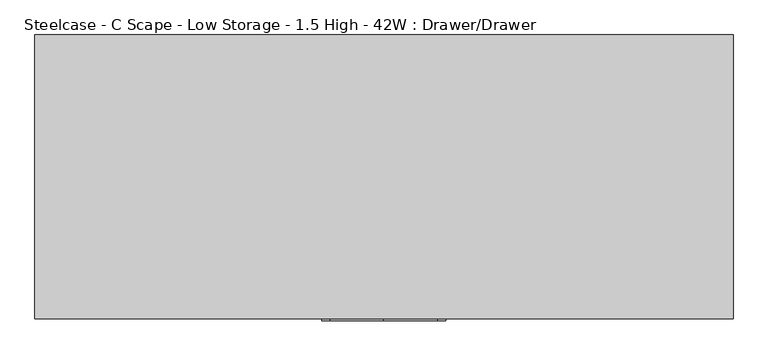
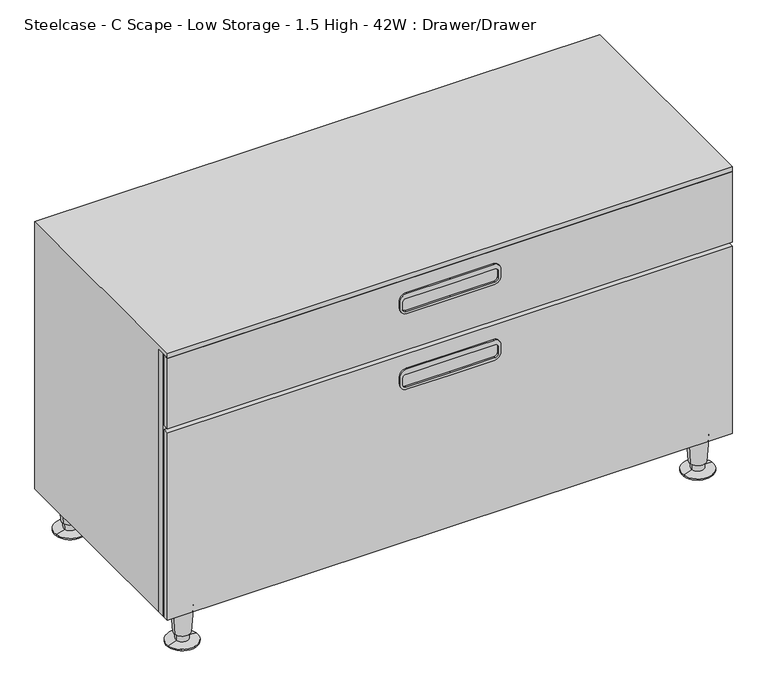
"""IFC4 building model written with IfcOpenShell, lengths in millimetres: furniture geometry, Steelcase - C Scape - Low Storage - 1.5 High - 42W : Drawer/Drawer."""

from ifc_helpers import new_model, si_unit, point, frame, frame_2d, origin, place, context, project, spatial, polyline, circle_curve, trimmed, segment, composite_curve, outline, extrude, faceted_brep, source, transform, mapped, element, save
from ifc_brep_helpers import plane_surface, cylinder_surface, revolved_surface, advanced_brep


def steelcase_c_scape_low_storage_1_5_high_42w_drawer_drawer_9a1840af(model_context):
    return source(origin(), model_context, "Body", "SolidModel", [
        extrude(outline(polyline([(599.44, 532.2710512), (599.44, 0.0), (76.1999955, 0.0), (76.1999955, 1065.53), (599.44, 1065.53), (599.44, 532.2710512)]), holes=[polyline([(92.7100024, 1043.5617285), (92.7100024, 21.3382324), (582.93, 21.3382324), (582.93, 1043.5617285), (92.7100024, 1043.5617285)])]), frame((0.0, -419.3484735, 0.0), z_axis=(0.0, 1.0, 0.0), x_axis=(0.0, 0.0, 1.0)), (0.0, 0.0, 1.0), 14.9862946),
        extrude(outline(composite_curve([segment(trimmed(circle_curve(frame_2d((560.7050073, 450.2147442)), 12.7), [point((573.4050073, 450.2147442))], [point((560.7050073, 437.5147442))], False, "CARTESIAN"), True, "CONTINUOUS"), segment(polyline([(560.7050073, 437.5147442), (546.1000363, 437.5147442)]), True, "CONTINUOUS"), segment(trimmed(circle_curve(frame_2d((546.1000363, 450.2147442)), 12.7), [point((546.1000363, 437.5147442))], [point((533.4000363, 450.2147442))], False, "CARTESIAN"), True, "CONTINUOUS"), segment(polyline([(533.4000363, 450.2147442), (533.4000363, 532.4475), (533.4000363, 614.6802558)]), True, "CONTINUOUS"), segment(trimmed(circle_curve(frame_2d((546.1000363, 614.6802558)), 12.7), [point((533.4000363, 614.6802558))], [point((546.1000363, 627.3802558))], False, "CARTESIAN"), True, "CONTINUOUS"), segment(polyline([(546.1000363, 627.3802558), (560.7050073, 627.3802558)]), True, "CONTINUOUS"), segment(trimmed(circle_curve(frame_2d((560.7050073, 614.6802558)), 12.7), [point((560.7050073, 627.3802558))], [point((573.4050073, 614.6802558))], False, "CARTESIAN"), True, "CONTINUOUS"), segment(polyline([(573.4050073, 614.6802558), (573.4050073, 532.4475), (573.4050073, 450.2147442)]), True, "CONTINUOUS")], self_intersect=False), holes=[composite_curve([segment(trimmed(circle_curve(frame_2d((557.2760257, 448.6923565)), 6.35), [point((557.2760257, 442.3423565))], [point((563.6260257, 448.6923565))], True, "CARTESIAN"), True, "CONTINUOUS"), segment(polyline([(563.6260257, 448.6923565), (563.6260257, 532.4475), (563.6260257, 616.2026435)]), True, "CONTINUOUS"), segment(trimmed(circle_curve(frame_2d((557.2760257, 616.2026435)), 6.35), [point((563.6260257, 616.2026435))], [point((557.2760257, 622.5526435))], True, "CARTESIAN"), True, "CONTINUOUS"), segment(polyline([(557.2760257, 622.5526435), (544.5760136, 622.5526435)]), True, "CONTINUOUS"), segment(trimmed(circle_curve(frame_2d((544.5760136, 616.2026435)), 6.35), [point((544.5760136, 622.5526435))], [point((538.2260136, 616.2026435))], True, "CARTESIAN"), True, "CONTINUOUS"), segment(polyline([(538.2260136, 616.2026435), (538.2260136, 532.4475), (538.2260136, 448.6923565)]), True, "CONTINUOUS"), segment(trimmed(circle_curve(frame_2d((544.5760136, 448.6923565)), 6.35), [point((538.2260136, 448.6923565))], [point((544.5760136, 442.3423565))], True, "CARTESIAN"), True, "CONTINUOUS"), segment(polyline([(544.5760136, 442.3423565), (557.2760257, 442.3423565)]), True, "CONTINUOUS")], self_intersect=False)]), frame((0.0, -436.118, 0.0), z_axis=(0.0, 1.0, 0.0), x_axis=(0.0, 0.0, 1.0)), (0.0, 0.0, 1.0), 3.048),
        extrude(outline(composite_curve([segment(trimmed(circle_curve(frame_2d((409.5749879, 450.2147442)), 12.7), [point((422.2749879, 450.2147442))], [point((409.5749879, 437.5147442))], False, "CARTESIAN"), True, "CONTINUOUS"), segment(polyline([(409.5749879, 437.5147442), (394.970017, 437.5147442)]), True, "CONTINUOUS"), segment(trimmed(circle_curve(frame_2d((394.970017, 450.2147442)), 12.7), [point((394.970017, 437.5147442))], [point((382.270017, 450.2147442))], False, "CARTESIAN"), True, "CONTINUOUS"), segment(polyline([(382.270017, 450.2147442), (382.270017, 532.4475), (382.270017, 614.6802558)]), True, "CONTINUOUS"), segment(trimmed(circle_curve(frame_2d((394.970017, 614.6802558)), 12.7), [point((382.270017, 614.6802558))], [point((394.970017, 627.3802558))], False, "CARTESIAN"), True, "CONTINUOUS"), segment(polyline([(394.970017, 627.3802558), (409.5749879, 627.3802558)]), True, "CONTINUOUS"), segment(trimmed(circle_curve(frame_2d((409.5749879, 614.6802558)), 12.7), [point((409.5749879, 627.3802558))], [point((422.2749879, 614.6802558))], False, "CARTESIAN"), True, "CONTINUOUS"), segment(polyline([(422.2749879, 614.6802558), (422.2749879, 532.4475), (422.2749879, 450.2147442)]), True, "CONTINUOUS")], self_intersect=False), holes=[composite_curve([segment(trimmed(circle_curve(frame_2d((406.1460063, 448.6923565)), 6.35), [point((406.1460063, 442.3423565))], [point((412.4960063, 448.6923565))], True, "CARTESIAN"), True, "CONTINUOUS"), segment(polyline([(412.4960063, 448.6923565), (412.4960063, 532.4475), (412.4960063, 616.2026435)]), True, "CONTINUOUS"), segment(trimmed(circle_curve(frame_2d((406.1460063, 616.2026435)), 6.35), [point((412.4960063, 616.2026435))], [point((406.1460063, 622.5526435))], True, "CARTESIAN"), True, "CONTINUOUS"), segment(polyline([(406.1460063, 622.5526435), (393.4459942, 622.5526435)]), True, "CONTINUOUS"), segment(trimmed(circle_curve(frame_2d((393.4459942, 616.2026435)), 6.35), [point((393.4459942, 622.5526435))], [point((387.0959942, 616.2026435))], True, "CARTESIAN"), True, "CONTINUOUS"), segment(polyline([(387.0959942, 616.2026435), (387.0959942, 532.4475), (387.0959942, 448.6923565)]), True, "CONTINUOUS"), segment(trimmed(circle_curve(frame_2d((393.4459942, 448.6923565)), 6.35), [point((387.0959942, 448.6923565))], [point((393.4459942, 442.3423565))], True, "CARTESIAN"), True, "CONTINUOUS"), segment(polyline([(393.4459942, 442.3423565), (406.1460063, 442.3423565)]), True, "CONTINUOUS")], self_intersect=False)]), frame((0.0, -436.118, 0.0), z_axis=(0.0, 1.0, 0.0), x_axis=(0.0, 0.0, 1.0)), (0.0, 0.0, 1.0), 3.048),
        advanced_brep(
        [(1038.2598695, -31.5218435, 76.2), (1000.5981305, -37.2840847, 76.2), (1019.429, -34.4029641, 76.2), (1034.3095214, -32.1262463, 19.05), (1004.5484786, -36.6796819, 19.05), (1031.8799345, -32.4979728, 19.05), (1006.9780655, -36.3079555, 19.05), (1031.191165, -32.6033544, 5.7545598), (1007.666835, -36.2025738, 5.7545598), (1048.5400485, -29.9489775, 2.5119506), (990.3179515, -38.8569507, 2.5119506), (1048.5400485, -29.9489775, 0.0), (990.3179515, -38.8569507, 0.0), (1019.429, -34.4029641, 0.0)],
        [
            (0, 1, circle_curve(frame((1019.429, -34.4029641, 76.2), z_axis=(0.0, 0.0, 1.0), x_axis=(0.0, -1.0, 0.0)), 19.05)),
            (1, 2),
            (2, 0),
            (1, 0, circle_curve(frame((1019.429, -34.4029641, 76.2), z_axis=(0.0, 0.0, 1.0), x_axis=(0.0, -1.0, 0.0)), 19.05)),
            (3, 4, circle_curve(frame((1019.429, -34.4029641, 19.05), z_axis=(0.0, 0.0, 1.0), x_axis=(0.0, -1.0, 0.0)), 15.0536827)),
            (4, 1),
            (0, 3),
            (4, 3, circle_curve(frame((1019.429, -34.4029641, 19.05), z_axis=(0.0, 0.0, 1.0), x_axis=(0.0, -1.0, 0.0)), 15.0536827)),
            (5, 6, circle_curve(frame((1019.429, -34.4029641, 19.05), z_axis=(0.0, 0.0, 1.0), x_axis=(0.0, -1.0, 0.0)), 12.5958232)),
            (6, 4),
            (3, 5),
            (6, 5, circle_curve(frame((1019.429, -34.4029641, 19.05), z_axis=(0.0, 0.0, 1.0), x_axis=(0.0, -1.0, 0.0)), 12.5958232)),
            (7, 8, circle_curve(frame((1019.429, -34.4029641, 5.7545598), z_axis=(0.0, 0.0, 1.0), x_axis=(0.0, -1.0, 0.0)), 11.8990387)),
            (8, 6),
            (5, 7),
            (8, 7, circle_curve(frame((1019.429, -34.4029641, 5.7545598), z_axis=(0.0, 0.0, 1.0), x_axis=(0.0, -1.0, 0.0)), 11.8990387)),
            (9, 10, circle_curve(frame((1019.429, -34.4029641, 2.5119506), z_axis=(0.0, 0.0, 1.0), x_axis=(0.0, -1.0, 0.0)), 29.4498071)),
            (10, 8),
            (7, 9),
            (10, 9, circle_curve(frame((1019.429, -34.4029641, 2.5119506), z_axis=(0.0, 0.0, 1.0), x_axis=(0.0, -1.0, 0.0)), 29.4498071)),
            (11, 12, circle_curve(frame((1019.429, -34.4029641, 0.0), z_axis=(0.0, 0.0, 1.0), x_axis=(0.0, -1.0, 0.0)), 29.4498071)),
            (12, 10),
            (9, 11),
            (12, 11, circle_curve(frame((1019.429, -34.4029641, 0.0), z_axis=(0.0, 0.0, 1.0), x_axis=(0.0, -1.0, 0.0)), 29.4498071)),
            (13, 12),
            (11, 13),
        ],
        [
            plane_surface(frame((1019.429, -34.4029641, 76.2), z_axis=(0.0, 0.0, 1.0), x_axis=(0.0, -1.0, 0.0))),
            revolved_surface(polyline([(1019.429, -53.4529641, 76.2), (1019.429, -49.4566468, 19.05)]), (1019.429, -34.4029641, 25.4), (0.0, 0.0, -1.0)),
            plane_surface(frame((1019.429, -34.4029641, 19.05), z_axis=(0.0, 0.0, -1.0), x_axis=(0.0, -1.0, 0.0))),
            revolved_surface(polyline([(1019.429, -46.9987873, 19.05), (1019.429, -46.3020028, 5.7545598)]), (1019.429, -34.4029641, 25.4), (0.0, 0.0, -1.0)),
            revolved_surface(polyline([(1019.429, -46.3020028, 5.7545598), (1019.429, -63.8527712, 2.5119506)]), (1019.429, -34.4029641, 25.4), (0.0, 0.0, -1.0)),
            cylinder_surface(frame((1019.429, -34.4029641, 25.4), z_axis=(0.0, 0.0, -1.0), x_axis=(0.0, -1.0, 0.0)), 29.4498071),
            plane_surface(frame((1019.429, -34.4029641, 0.0), z_axis=(0.0, 0.0, -1.0), x_axis=(0.0, -1.0, 0.0))),
        ],
        [
            (0, [[1, 2, 3]]),
            (0, [[4, -3, -2]]),
            (1, [[5, 6, -1, 7]]),
            (1, [[8, -7, -4, -6]]),
            (2, [[9, 10, -5, 11]]),
            (2, [[12, -11, -8, -10]]),
            (3, [[13, 14, -9, 15]]),
            (3, [[16, -15, -12, -14]]),
            (4, [[17, 18, -13, 19]]),
            (4, [[20, -19, -16, -18]]),
            (5, [[21, 22, -17, 23]]),
            (5, [[24, -23, -20, -22]]),
            (6, [[25, -21, 26]]),
            (6, [[-26, -24, -25]]),
        ],
    ),
        advanced_brep(
        [(1038.2598695, -397.1702762, 76.2), (1000.5981305, -402.9325174, 76.2), (1019.429, -400.0513968, 76.2), (1034.3095214, -397.774679, 19.05), (1004.5484786, -402.3281146, 19.05), (1031.8799345, -398.1464055, 19.05), (1006.9780655, -401.9563882, 19.05), (1031.191165, -398.2517871, 5.7545598), (1007.666835, -401.8510065, 5.7545598), (1048.5400485, -395.5974102, 2.5119506), (990.3179515, -404.5053834, 2.5119506), (1048.5400485, -395.5974102, 0.0), (990.3179515, -404.5053834, 0.0), (1019.429, -400.0513968, 0.0)],
        [
            (0, 1, circle_curve(frame((1019.429, -400.0513968, 76.2), z_axis=(0.0, 0.0, 1.0), x_axis=(0.0, -1.0, 0.0)), 19.05)),
            (1, 2),
            (2, 0),
            (1, 0, circle_curve(frame((1019.429, -400.0513968, 76.2), z_axis=(0.0, 0.0, 1.0), x_axis=(0.0, -1.0, 0.0)), 19.05)),
            (3, 4, circle_curve(frame((1019.429, -400.0513968, 19.05), z_axis=(0.0, 0.0, 1.0), x_axis=(0.0, -1.0, 0.0)), 15.0536827)),
            (4, 1),
            (0, 3),
            (4, 3, circle_curve(frame((1019.429, -400.0513968, 19.05), z_axis=(0.0, 0.0, 1.0), x_axis=(0.0, -1.0, 0.0)), 15.0536827)),
            (5, 6, circle_curve(frame((1019.429, -400.0513968, 19.05), z_axis=(0.0, 0.0, 1.0), x_axis=(0.0, -1.0, 0.0)), 12.5958232)),
            (6, 4),
            (3, 5),
            (6, 5, circle_curve(frame((1019.429, -400.0513968, 19.05), z_axis=(0.0, 0.0, 1.0), x_axis=(0.0, -1.0, 0.0)), 12.5958232)),
            (7, 8, circle_curve(frame((1019.429, -400.0513968, 5.7545598), z_axis=(0.0, 0.0, 1.0), x_axis=(0.0, -1.0, 0.0)), 11.8990387)),
            (8, 6),
            (5, 7),
            (8, 7, circle_curve(frame((1019.429, -400.0513968, 5.7545598), z_axis=(0.0, 0.0, 1.0), x_axis=(0.0, -1.0, 0.0)), 11.8990387)),
            (9, 10, circle_curve(frame((1019.429, -400.0513968, 2.5119506), z_axis=(0.0, 0.0, 1.0), x_axis=(0.0, -1.0, 0.0)), 29.4498071)),
            (10, 8),
            (7, 9),
            (10, 9, circle_curve(frame((1019.429, -400.0513968, 2.5119506), z_axis=(0.0, 0.0, 1.0), x_axis=(0.0, -1.0, 0.0)), 29.4498071)),
            (11, 12, circle_curve(frame((1019.429, -400.0513968, 0.0), z_axis=(0.0, 0.0, 1.0), x_axis=(0.0, -1.0, 0.0)), 29.4498071)),
            (12, 10),
            (9, 11),
            (12, 11, circle_curve(frame((1019.429, -400.0513968, 0.0), z_axis=(0.0, 0.0, 1.0), x_axis=(0.0, -1.0, 0.0)), 29.4498071)),
            (13, 12),
            (11, 13),
        ],
        [
            plane_surface(frame((1019.429, -400.0513968, 76.2), z_axis=(0.0, 0.0, 1.0), x_axis=(0.0, -1.0, 0.0))),
            revolved_surface(polyline([(1019.429, -419.1013968, 76.2), (1019.429, -415.1050795, 19.05)]), (1019.429, -400.0513968, 25.4), (0.0, 0.0, -1.0)),
            plane_surface(frame((1019.429, -400.0513968, 19.05), z_axis=(0.0, 0.0, -1.0), x_axis=(0.0, -1.0, 0.0))),
            revolved_surface(polyline([(1019.429, -412.64722, 19.05), (1019.429, -411.9504355, 5.7545598)]), (1019.429, -400.0513968, 25.4), (0.0, 0.0, -1.0)),
            revolved_surface(polyline([(1019.429, -411.9504355, 5.7545598), (1019.429, -429.5012039, 2.5119506)]), (1019.429, -400.0513968, 25.4), (0.0, 0.0, -1.0)),
            cylinder_surface(frame((1019.429, -400.0513968, 25.4), z_axis=(0.0, 0.0, -1.0), x_axis=(0.0, -1.0, 0.0)), 29.4498071),
            plane_surface(frame((1019.429, -400.0513968, 0.0), z_axis=(0.0, 0.0, -1.0), x_axis=(0.0, -1.0, 0.0))),
        ],
        [
            (0, [[1, 2, 3]]),
            (0, [[4, -3, -2]]),
            (1, [[5, 6, -1, 7]]),
            (1, [[8, -7, -4, -6]]),
            (2, [[9, 10, -5, 11]]),
            (2, [[12, -11, -8, -10]]),
            (3, [[13, 14, -9, 15]]),
            (3, [[16, -15, -12, -14]]),
            (4, [[17, 18, -13, 19]]),
            (4, [[20, -19, -16, -18]]),
            (5, [[21, 22, -17, 23]]),
            (5, [[24, -23, -20, -22]]),
            (6, [[25, -21, 26]]),
            (6, [[-26, -24, -25]]),
        ],
    ),
        advanced_brep(
        [(65.5422821, -397.1702762, 76.2), (27.8805432, -402.9325174, 76.2), (46.7114126, -400.0513968, 76.2), (61.5919341, -397.774679, 19.05), (31.8308912, -402.3281146, 19.05), (59.1623471, -398.1464055, 19.05), (34.2604781, -401.9563882, 19.05), (58.4735776, -398.2517871, 5.7545598), (34.9492476, -401.8510065, 5.7545598), (75.8224611, -395.5974102, 2.5119506), (17.6003641, -404.5053834, 2.5119506), (75.8224611, -395.5974102, 0.0), (17.6003641, -404.5053834, 0.0), (46.7114126, -400.0513968, 0.0)],
        [
            (0, 1, circle_curve(frame((46.7114126, -400.0513968, 76.2), z_axis=(0.0, 0.0, 1.0), x_axis=(0.0, -1.0, 0.0)), 19.05)),
            (1, 2),
            (2, 0),
            (1, 0, circle_curve(frame((46.7114126, -400.0513968, 76.2), z_axis=(0.0, 0.0, 1.0), x_axis=(0.0, -1.0, 0.0)), 19.05)),
            (3, 4, circle_curve(frame((46.7114126, -400.0513968, 19.05), z_axis=(0.0, 0.0, 1.0), x_axis=(0.0, -1.0, 0.0)), 15.0536827)),
            (4, 1),
            (0, 3),
            (4, 3, circle_curve(frame((46.7114126, -400.0513968, 19.05), z_axis=(0.0, 0.0, 1.0), x_axis=(0.0, -1.0, 0.0)), 15.0536827)),
            (5, 6, circle_curve(frame((46.7114126, -400.0513968, 19.05), z_axis=(0.0, 0.0, 1.0), x_axis=(0.0, -1.0, 0.0)), 12.5958232)),
            (6, 4),
            (3, 5),
            (6, 5, circle_curve(frame((46.7114126, -400.0513968, 19.05), z_axis=(0.0, 0.0, 1.0), x_axis=(0.0, -1.0, 0.0)), 12.5958232)),
            (7, 8, circle_curve(frame((46.7114126, -400.0513968, 5.7545598), z_axis=(0.0, 0.0, 1.0), x_axis=(0.0, -1.0, 0.0)), 11.8990387)),
            (8, 6),
            (5, 7),
            (8, 7, circle_curve(frame((46.7114126, -400.0513968, 5.7545598), z_axis=(0.0, 0.0, 1.0), x_axis=(0.0, -1.0, 0.0)), 11.8990387)),
            (9, 10, circle_curve(frame((46.7114126, -400.0513968, 2.5119506), z_axis=(0.0, 0.0, 1.0), x_axis=(0.0, -1.0, 0.0)), 29.4498071)),
            (10, 8),
            (7, 9),
            (10, 9, circle_curve(frame((46.7114126, -400.0513968, 2.5119506), z_axis=(0.0, 0.0, 1.0), x_axis=(0.0, -1.0, 0.0)), 29.4498071)),
            (11, 12, circle_curve(frame((46.7114126, -400.0513968, 0.0), z_axis=(0.0, 0.0, 1.0), x_axis=(0.0, -1.0, 0.0)), 29.4498071)),
            (12, 10),
            (9, 11),
            (12, 11, circle_curve(frame((46.7114126, -400.0513968, 0.0), z_axis=(0.0, 0.0, 1.0), x_axis=(0.0, -1.0, 0.0)), 29.4498071)),
            (13, 12),
            (11, 13),
        ],
        [
            plane_surface(frame((46.7114126, -400.0513968, 76.2), z_axis=(0.0, 0.0, 1.0), x_axis=(0.0, -1.0, 0.0))),
            revolved_surface(polyline([(46.7114126, -419.1013968, 76.2), (46.7114126, -415.1050795, 19.05)]), (46.7114126, -400.0513968, 25.4), (0.0, 0.0, -1.0)),
            plane_surface(frame((46.7114126, -400.0513968, 19.05), z_axis=(0.0, 0.0, -1.0), x_axis=(0.0, -1.0, 0.0))),
            revolved_surface(polyline([(46.7114126, -412.64722, 19.05), (46.7114126, -411.9504355, 5.7545598)]), (46.7114126, -400.0513968, 25.4), (0.0, 0.0, -1.0)),
            revolved_surface(polyline([(46.7114126, -411.9504355, 5.7545598), (46.7114126, -429.5012039, 2.5119506)]), (46.7114126, -400.0513968, 25.4), (0.0, 0.0, -1.0)),
            cylinder_surface(frame((46.7114126, -400.0513968, 25.4), z_axis=(0.0, 0.0, -1.0), x_axis=(0.0, -1.0, 0.0)), 29.4498071),
            plane_surface(frame((46.7114126, -400.0513968, 0.0), z_axis=(0.0, 0.0, -1.0), x_axis=(0.0, -1.0, 0.0))),
        ],
        [
            (0, [[1, 2, 3]]),
            (0, [[4, -3, -2]]),
            (1, [[5, 6, -1, 7]]),
            (1, [[8, -7, -4, -6]]),
            (2, [[9, 10, -5, 11]]),
            (2, [[12, -11, -8, -10]]),
            (3, [[13, 14, -9, 15]]),
            (3, [[16, -15, -12, -14]]),
            (4, [[17, 18, -13, 19]]),
            (4, [[20, -19, -16, -18]]),
            (5, [[21, 22, -17, 23]]),
            (5, [[24, -23, -20, -22]]),
            (6, [[25, -21, 26]]),
            (6, [[-26, -24, -25]]),
        ],
    ),
        advanced_brep(
        [(65.5422821, -31.5218435, 76.2), (27.8805432, -37.2840847, 76.2), (46.7114126, -34.4029641, 76.2), (61.5919341, -32.1262463, 19.05), (31.8308912, -36.6796819, 19.05), (59.1623471, -32.4979728, 19.05), (34.2604781, -36.3079555, 19.05), (58.4735776, -32.6033544, 5.7545598), (34.9492476, -36.2025738, 5.7545598), (75.8224611, -29.9489775, 2.5119506), (17.6003641, -38.8569507, 2.5119506), (75.8224611, -29.9489775, 0.0), (17.6003641, -38.8569507, 0.0), (46.7114126, -34.4029641, 0.0)],
        [
            (0, 1, circle_curve(frame((46.7114126, -34.4029641, 76.2), z_axis=(0.0, 0.0, 1.0), x_axis=(0.0, -1.0, 0.0)), 19.05)),
            (1, 2),
            (2, 0),
            (1, 0, circle_curve(frame((46.7114126, -34.4029641, 76.2), z_axis=(0.0, 0.0, 1.0), x_axis=(0.0, -1.0, 0.0)), 19.05)),
            (3, 4, circle_curve(frame((46.7114126, -34.4029641, 19.05), z_axis=(0.0, 0.0, 1.0), x_axis=(0.0, -1.0, 0.0)), 15.0536827)),
            (4, 1),
            (0, 3),
            (4, 3, circle_curve(frame((46.7114126, -34.4029641, 19.05), z_axis=(0.0, 0.0, 1.0), x_axis=(0.0, -1.0, 0.0)), 15.0536827)),
            (5, 6, circle_curve(frame((46.7114126, -34.4029641, 19.05), z_axis=(0.0, 0.0, 1.0), x_axis=(0.0, -1.0, 0.0)), 12.5958232)),
            (6, 4),
            (3, 5),
            (6, 5, circle_curve(frame((46.7114126, -34.4029641, 19.05), z_axis=(0.0, 0.0, 1.0), x_axis=(0.0, -1.0, 0.0)), 12.5958232)),
            (7, 8, circle_curve(frame((46.7114126, -34.4029641, 5.7545598), z_axis=(0.0, 0.0, 1.0), x_axis=(0.0, -1.0, 0.0)), 11.8990387)),
            (8, 6),
            (5, 7),
            (8, 7, circle_curve(frame((46.7114126, -34.4029641, 5.7545598), z_axis=(0.0, 0.0, 1.0), x_axis=(0.0, -1.0, 0.0)), 11.8990387)),
            (9, 10, circle_curve(frame((46.7114126, -34.4029641, 2.5119506), z_axis=(0.0, 0.0, 1.0), x_axis=(0.0, -1.0, 0.0)), 29.4498071)),
            (10, 8),
            (7, 9),
            (10, 9, circle_curve(frame((46.7114126, -34.4029641, 2.5119506), z_axis=(0.0, 0.0, 1.0), x_axis=(0.0, -1.0, 0.0)), 29.4498071)),
            (11, 12, circle_curve(frame((46.7114126, -34.4029641, 0.0), z_axis=(0.0, 0.0, 1.0), x_axis=(0.0, -1.0, 0.0)), 29.4498071)),
            (12, 10),
            (9, 11),
            (12, 11, circle_curve(frame((46.7114126, -34.4029641, 0.0), z_axis=(0.0, 0.0, 1.0), x_axis=(0.0, -1.0, 0.0)), 29.4498071)),
            (13, 12),
            (11, 13),
        ],
        [
            plane_surface(frame((46.7114126, -34.4029641, 76.2), z_axis=(0.0, 0.0, 1.0), x_axis=(0.0, -1.0, 0.0))),
            revolved_surface(polyline([(46.7114126, -53.4529641, 76.2), (46.7114126, -49.4566468, 19.05)]), (46.7114126, -34.4029641, 25.4), (0.0, 0.0, -1.0)),
            plane_surface(frame((46.7114126, -34.4029641, 19.05), z_axis=(0.0, 0.0, -1.0), x_axis=(0.0, -1.0, 0.0))),
            revolved_surface(polyline([(46.7114126, -46.9987873, 19.05), (46.7114126, -46.3020028, 5.7545598)]), (46.7114126, -34.4029641, 25.4), (0.0, 0.0, -1.0)),
            revolved_surface(polyline([(46.7114126, -46.3020028, 5.7545598), (46.7114126, -63.8527712, 2.5119506)]), (46.7114126, -34.4029641, 25.4), (0.0, 0.0, -1.0)),
            cylinder_surface(frame((46.7114126, -34.4029641, 25.4), z_axis=(0.0, 0.0, -1.0), x_axis=(0.0, -1.0, 0.0)), 29.4498071),
            plane_surface(frame((46.7114126, -34.4029641, 0.0), z_axis=(0.0, 0.0, -1.0), x_axis=(0.0, -1.0, 0.0))),
        ],
        [
            (0, [[1, 2, 3]]),
            (0, [[4, -3, -2]]),
            (1, [[5, 6, -1, 7]]),
            (1, [[8, -7, -4, -6]]),
            (2, [[9, 10, -5, 11]]),
            (2, [[12, -11, -8, -10]]),
            (3, [[13, 14, -9, 15]]),
            (3, [[16, -15, -12, -14]]),
            (4, [[17, 18, -13, 19]]),
            (4, [[20, -19, -16, -18]]),
            (5, [[21, 22, -17, 23]]),
            (5, [[24, -23, -20, -22]]),
            (6, [[25, -21, 26]]),
            (6, [[-26, -24, -25]]),
        ],
    ),
        extrude(outline(polyline([(1065.53, -422.5233329), (1065.53, -433.07), (0.0, -433.07), (0.0, -422.5233329), (1065.53, -422.5233329)])), frame((0.0, 0.0, 458.7875121), z_axis=(0.0, 0.0, 1.0), x_axis=(1.0, 0.0, 0.0)), (0.0, 0.0, 1.0), 140.6524879),
        faceted_brep([(0.0, 0.0, 609.6), (1065.53, 0.0, 609.6), (1065.53, 0.0, 458.7875121), (1065.53, 0.0, 435.8005068), (1065.53, 0.0, 76.2), (0.0, 0.0, 76.2), (0.0, 0.0, 435.8005068), (0.0, 0.0, 458.7875121), (0.0, -404.362179, 76.2), (0.0, -404.362179, 599.44), (0.0, -433.07, 599.44), (0.0, -433.07, 609.6), (1065.53, -404.362179, 76.2), (1065.53, -404.362179, 599.44), (1043.5617285, -404.362179, 599.44), (1043.5617285, -404.362179, 458.7875121), (21.3382324, -404.362179, 458.7875121), (21.3382324, -404.362179, 599.44), (1043.5617285, -404.362179, 435.8005068), (1043.5617285, -404.362179, 92.7100024), (21.3382324, -404.362179, 92.7100024), (21.3382324, -404.362179, 435.8005068), (21.3382324, -9.525, 599.44), (21.3382324, -9.525, 458.7875121), (21.3382324, -9.525, 435.8005068), (21.3382324, -9.525, 92.7100024), (1043.5617285, -9.525, 599.44), (1043.5617285, -9.525, 458.7875121), (1043.5617285, -9.525, 435.8005068), (1043.5617285, -9.525, 92.7100024), (1065.53, -433.07, 609.6), (1065.53, -433.07, 599.44)], [[[0, 1, 2, 3, 4, 5, 6, 7]], [[5, 8, 9, 10, 11, 0, 7, 6]], [[8, 12, 13, 14, 15, 16, 17, 9], [18, 19, 20, 21]], [[22, 17, 16, 23]], [[24, 21, 20, 25]], [[26, 22, 23, 27]], [[28, 24, 25, 29]], [[14, 26, 27, 15]], [[18, 28, 29, 19]], [[12, 4, 3, 2, 1, 30, 31, 13]], [[1, 0, 11, 30]], [[31, 10, 9, 17, 22, 26, 14, 13]], [[30, 11, 10, 31]], [[16, 15, 27, 23]], [[18, 21, 24, 28]], [[20, 19, 29, 25]], [[4, 12, 8, 5]]]),
        extrude(outline(polyline([(1065.53, -422.5233329), (1065.53, -433.07), (0.0, -433.07), (0.0, -422.5233329), (1065.53, -422.5233329)])), frame((0.0, 0.0, 76.2), z_axis=(0.0, 0.0, 1.0), x_axis=(1.0, 0.0, 0.0)), (0.0, 0.0, 1.0), 374.6499879),
    ])


if __name__ == "__main__":
    model = new_model("IFC4")
    model_context = context("Model", 3, world=origin())
    ifc_project = project(units=[si_unit("LENGTHUNIT", "METRE", prefix="MILLI")], contexts=[model_context])
    site = spatial("IfcSite", under=ifc_project)
    building = spatial("IfcBuilding", under=site)
    placement = place(None, origin())
    steelcase_c_scape_low_storage_1_5_high_42w_drawer_drawer_shape = steelcase_c_scape_low_storage_1_5_high_42w_drawer_drawer_9a1840af(model_context)
    element("IfcFurniture", 1, ObjectType="Steelcase - C Scape - Low Storage - 1.5 High - 42W : Drawer/Drawer", at=placement, inside=building, context=model_context, shape_type="MappedRepresentation", body=[
        mapped(steelcase_c_scape_low_storage_1_5_high_42w_drawer_drawer_shape, transform((0.0, 0.0, 0.0), x_axis=(1.0, 0.0, 0.0), y_axis=(0.0, 1.0, 0.0), z_axis=(0.0, 0.0, 1.0))),
    ])
    save(model, "model.ifc")
